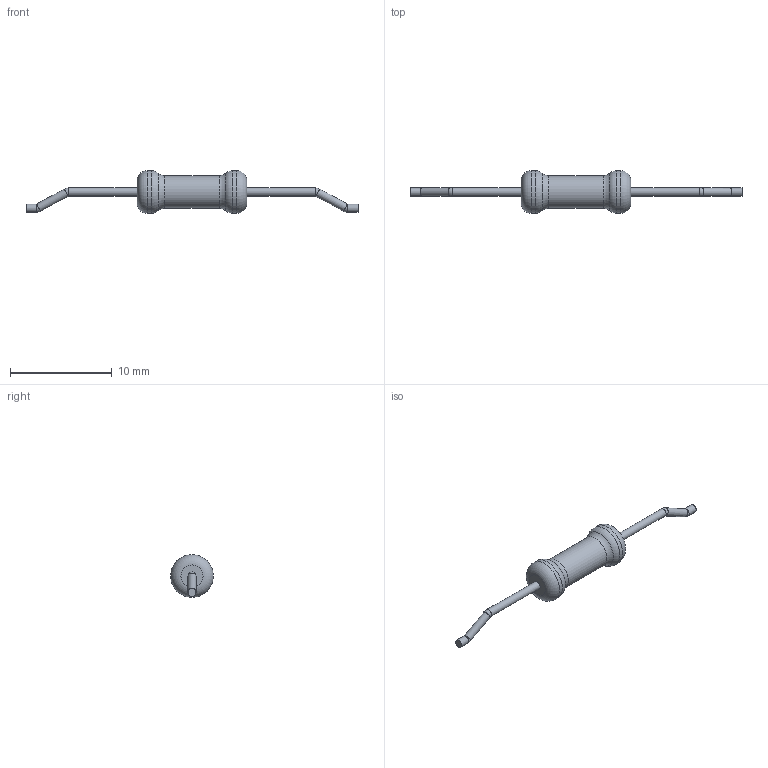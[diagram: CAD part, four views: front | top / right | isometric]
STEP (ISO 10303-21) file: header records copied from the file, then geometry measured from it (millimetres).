
FILE_DESCRIPTION(('STEP AP203'), '1');
FILE_NAME('R1-32-0.25(3)', '', ('UNSPECIFIED'), ('UNSPECIFIED'), 'ASCON STEP Converter 1.6', 'ASCON Math Kernel', '');
FILE_SCHEMA(('CONFIG_CONTROL_DESIGN'));
Length unit declared in the file: millimetre
Bounding box: 32.7 x 4.2 x 4.2 mm (x, y, z)
Volume: 116.9 mm3; surface area: 196.9 mm2
Topology: 1 solids, 1 shells, 23 faces, 41 edges, 22 vertices
Faces by surface type: torus 10, cylinder 9, plane 4
Full cylindrical faces by diameter (mm): 0.8 x6, 3.2 x1, 4.2 x2
Entity records: 682 total; most frequent: DIRECTION 92, CARTESIAN_POINT 68, AXIS2_PLACEMENT_3D 46, EDGE_LOOP 44, ORIENTED_EDGE 44, FACE_OUTER_BOUND 38, COLOUR_RGB 24, FILL_AREA_STYLE_COLOUR 24
